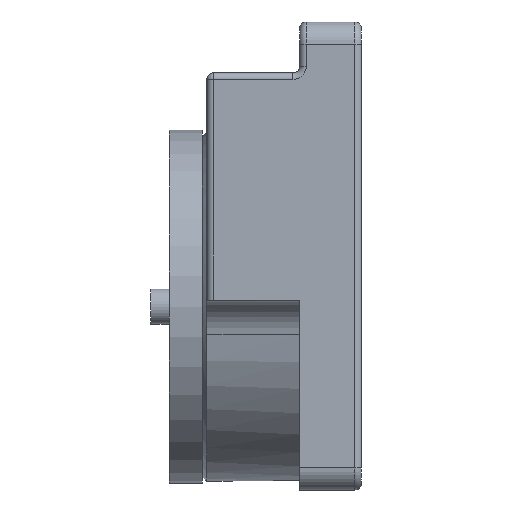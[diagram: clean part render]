
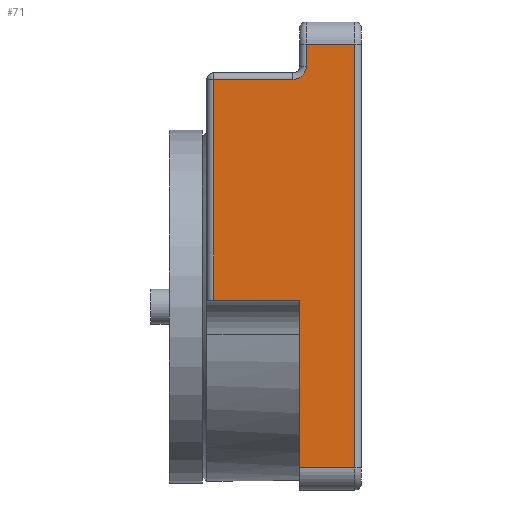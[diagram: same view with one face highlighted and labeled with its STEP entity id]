
A CAD part, left-side view. The second image highlights one B-rep face of the part: STEP entity #71.
In plain terms, the highlighted planar face has unit normal (-1, 0, 0).
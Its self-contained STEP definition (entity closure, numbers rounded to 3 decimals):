
#17 = EDGE_LOOP ( 'NONE', ( #102, #104, #123, #486, #502, #485, #167, #501, #179 ) ) ;
#43 = EDGE_CURVE ( 'NONE', #66, #67, #1711, .T. ) ;
#66 = VERTEX_POINT ( 'NONE', #1728 ) ;
#67 = VERTEX_POINT ( 'NONE', #1888 ) ;
#71 = ADVANCED_FACE ( 'NONE', ( #1847 ), #1887, .F. ) ;
#72 = VERTEX_POINT ( 'NONE', #1779 ) ;
#89 = VERTEX_POINT ( 'NONE', #1765 ) ;
#90 = VERTEX_POINT ( 'NONE', #1782 ) ;
#102 = ORIENTED_EDGE ( 'NONE', *, *, #43, .F. ) ;
#104 = ORIENTED_EDGE ( 'NONE', *, *, #111, .T. ) ;
#107 = EDGE_CURVE ( 'NONE', #90, #119, #1817, .T. ) ;
#110 = VERTEX_POINT ( 'NONE', #1754 ) ;
#111 = EDGE_CURVE ( 'NONE', #66, #110, #1842, .T. ) ;
#119 = VERTEX_POINT ( 'NONE', #1777 ) ;
#123 = ORIENTED_EDGE ( 'NONE', *, *, #483, .T. ) ;
#167 = ORIENTED_EDGE ( 'NONE', *, *, #487, .T. ) ;
#173 = EDGE_CURVE ( 'NONE', #484, #482, #4569, .T. ) ;
#175 = EDGE_CURVE ( 'NONE', #482, #67, #4560, .T. ) ;
#179 = ORIENTED_EDGE ( 'NONE', *, *, #175, .T. ) ;
#482 = VERTEX_POINT ( 'NONE', #2462 ) ;
#483 = EDGE_CURVE ( 'NONE', #110, #89, #2422, .T. ) ;
#484 = VERTEX_POINT ( 'NONE', #2461 ) ;
#485 = ORIENTED_EDGE ( 'NONE', *, *, #107, .T. ) ;
#486 = ORIENTED_EDGE ( 'NONE', *, *, #490, .T. ) ;
#487 = EDGE_CURVE ( 'NONE', #119, #484, #2424, .T. ) ;
#490 = EDGE_CURVE ( 'NONE', #89, #72, #2380, .T. ) ;
#500 = EDGE_CURVE ( 'NONE', #72, #90, #2361, .T. ) ;
#501 = ORIENTED_EDGE ( 'NONE', *, *, #173, .T. ) ;
#502 = ORIENTED_EDGE ( 'NONE', *, *, #500, .T. ) ;
#1708 = DIRECTION ( 'NONE',  ( 0., 1., 0. ) ) ;
#1709 = VECTOR ( 'NONE', #1708, 1000. ) ;
#1710 = CARTESIAN_POINT ( 'NONE',  ( -96., -113.461, -20. ) ) ;
#1711 = LINE ( 'NONE', #1710, #1709 ) ;
#1725 = DIRECTION ( 'NONE',  ( 1., 0., 0. ) ) ;
#1726 = CARTESIAN_POINT ( 'NONE',  ( -96., 70., 106. ) ) ;
#1728 = CARTESIAN_POINT ( 'NONE',  ( -96., 28., -20. ) ) ;
#1749 = DIRECTION ( 'NONE',  ( 0., 0., -1. ) ) ;
#1754 = CARTESIAN_POINT ( 'NONE',  ( -96., 28., -96. ) ) ;
#1765 = CARTESIAN_POINT ( 'NONE',  ( -96., 3., -96. ) ) ;
#1777 = CARTESIAN_POINT ( 'NONE',  ( -96., 25., 86. ) ) ;
#1779 = CARTESIAN_POINT ( 'NONE',  ( -96., 3., 96. ) ) ;
#1782 = CARTESIAN_POINT ( 'NONE',  ( -96., 25., 96. ) ) ;
#1817 = LINE ( 'NONE', #1866, #1865 ) ;
#1839 = DIRECTION ( 'NONE',  ( 0., 0., -1. ) ) ;
#1840 = VECTOR ( 'NONE', #1839, 1000. ) ;
#1841 = CARTESIAN_POINT ( 'NONE',  ( -96., 28., 106. ) ) ;
#1842 = LINE ( 'NONE', #1841, #1840 ) ;
#1847 = FACE_OUTER_BOUND ( 'NONE', #17, .T. ) ;
#1864 = DIRECTION ( 'NONE',  ( 0., 0., -1. ) ) ;
#1865 = VECTOR ( 'NONE', #1864, 1000. ) ;
#1866 = CARTESIAN_POINT ( 'NONE',  ( -96., 25., 106. ) ) ;
#1887 = PLANE ( 'NONE',  #1891 ) ;
#1888 = CARTESIAN_POINT ( 'NONE',  ( -96., 67., -20. ) ) ;
#1891 = AXIS2_PLACEMENT_3D ( 'NONE', #1726, #1725, #1749 ) ;
#2348 = AXIS2_PLACEMENT_3D ( 'NONE', #2379, #2378, #2353 ) ;
#2349 = DIRECTION ( 'NONE',  ( 0., 0., 1. ) ) ;
#2350 = VECTOR ( 'NONE', #2349, 1000. ) ;
#2351 = CARTESIAN_POINT ( 'NONE',  ( -96., 3., 96. ) ) ;
#2353 = DIRECTION ( 'NONE',  ( 0., 0., -1. ) ) ;
#2356 = DIRECTION ( 'NONE',  ( 0., 1., 0. ) ) ;
#2357 = CARTESIAN_POINT ( 'NONE',  ( -96., 70., 96. ) ) ;
#2361 = LINE ( 'NONE', #2357, #2374 ) ;
#2374 = VECTOR ( 'NONE', #2356, 1000. ) ;
#2378 = DIRECTION ( 'NONE',  ( 1., 0., 0. ) ) ;
#2379 = CARTESIAN_POINT ( 'NONE',  ( -96., 31., 86. ) ) ;
#2380 = LINE ( 'NONE', #2351, #2350 ) ;
#2382 = DIRECTION ( 'NONE',  ( 0., -1., 0. ) ) ;
#2420 = VECTOR ( 'NONE', #2382, 1000. ) ;
#2421 = CARTESIAN_POINT ( 'NONE',  ( -96., 70., -96. ) ) ;
#2422 = LINE ( 'NONE', #2421, #2420 ) ;
#2424 = CIRCLE ( 'NONE', #2348, 6. ) ;
#2461 = CARTESIAN_POINT ( 'NONE',  ( -96., 31., 80. ) ) ;
#2462 = CARTESIAN_POINT ( 'NONE',  ( -96., 67., 80. ) ) ;
#4555 = DIRECTION ( 'NONE',  ( 0., 0., -1. ) ) ;
#4556 = VECTOR ( 'NONE', #4555, 1000. ) ;
#4560 = LINE ( 'NONE', #4703, #4556 ) ;
#4564 = DIRECTION ( 'NONE',  ( 0., 1., 0. ) ) ;
#4567 = VECTOR ( 'NONE', #4564, 1000. ) ;
#4568 = CARTESIAN_POINT ( 'NONE',  ( -96., 70., 80. ) ) ;
#4569 = LINE ( 'NONE', #4568, #4567 ) ;
#4703 = CARTESIAN_POINT ( 'NONE',  ( -96., 67., 106. ) ) ;
